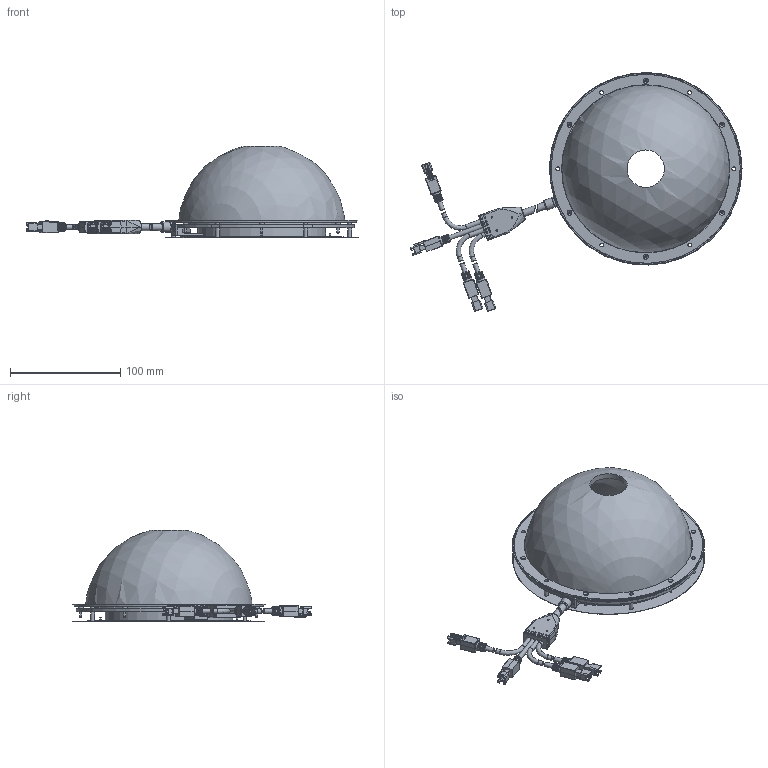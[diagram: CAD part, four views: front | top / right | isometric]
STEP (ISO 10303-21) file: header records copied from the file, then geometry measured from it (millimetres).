
FILE_DESCRIPTION (( 'STEP AP203' ), '1' );
FILE_NAME ('OPT-MSRID150-X-V1.0尨砩芞.STEP', '2025-02-12T03:47:29', ( '' ), ( '' ), 'SwSTEP 2.0', 'SolidWorks 2016', '' );
FILE_SCHEMA (( 'CONFIG_CONTROL_DESIGN' ));
Length unit declared in the file: millimetre
Products named in the file (1): OPT-MSRID150-X-V1.0尨砩芞
Bounding box: 301.76 x 217.11 x 82.97 mm (x, y, z)
Surface area: 120617.1 mm2 (no closed solid volume)
Topology: 0 solids, 28 shells, 1038 faces, 2866 edges, 1855 vertices
Faces by surface type: plane 548, cylinder 364, bspline 56, cone 54, torus 14, sphere 2
Full cylindrical faces by diameter (mm): 1.1 x4, 1.4 x4, 1.5 x3, 1.6 x6, 2 x6, 2.2 x6, 3.5 x12, 4.1 x10, 4.4 x6, 5 x6, 6.4 x2, 7.5 x4, 8.6 x1, 9.3 x1, 9.8 x1, 34 x1, 116 x1, 120 x1, 124 x1, 126 x1, 130 x1, 132 x1, 136 x1, 138 x1, 142 x1, 144 x1, 148 x1, 153 x1, 171.8 x1, 175 x1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
Entity records: 38970 total; most frequent: CARTESIAN_POINT 14389, ORIENTED_EDGE 4975, DIRECTION 4670, EDGE_CURVE 2671, VERTEX_POINT 1801, LINE 1598, VECTOR 1598, AXIS2_PLACEMENT_3D 1536
